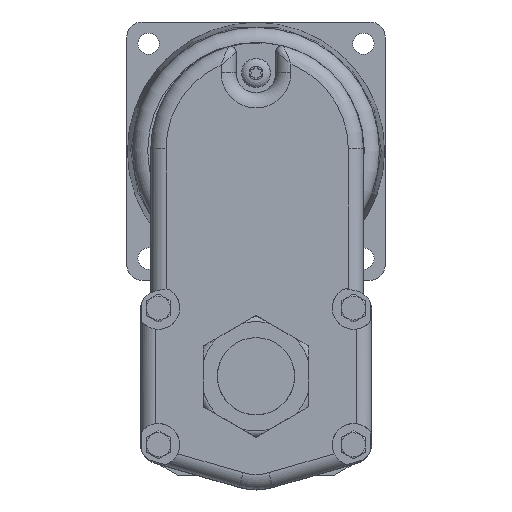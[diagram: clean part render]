
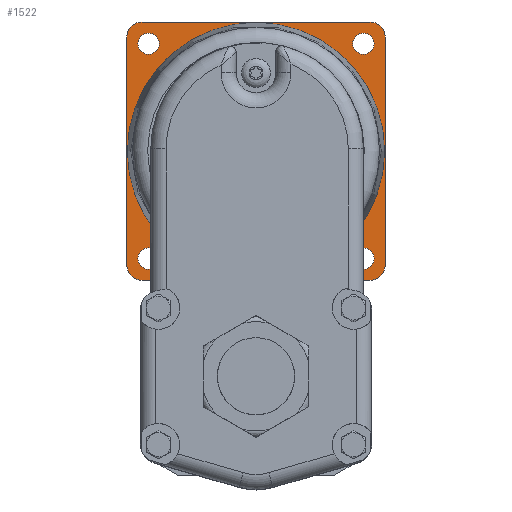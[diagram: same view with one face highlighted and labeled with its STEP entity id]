
A CAD part, top view. The second image highlights one B-rep face of the part: STEP entity #1522.
In plain terms, the highlighted planar face has unit normal (0, 0, 1).
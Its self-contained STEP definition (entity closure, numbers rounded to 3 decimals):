
#340 = EDGE_CURVE ( 'NONE', #11528, #11687, #5174, .T. ) ;
#351 = EDGE_CURVE ( 'NONE', #11612, #11528, #5203, .T. ) ;
#356 = EDGE_CURVE ( 'NONE', #11586, #11538, #5196, .T. ) ;
#357 = EDGE_CURVE ( 'NONE', #10983, #10983, #5212, .T. ) ;
#363 = EDGE_CURVE ( 'NONE', #11514, #11480, #5219, .T. ) ;
#365 = EDGE_CURVE ( 'NONE', #10989, #10989, #5221, .T. ) ;
#367 = EDGE_CURVE ( 'NONE', #11572, #11514, #5218, .T. ) ;
#370 = EDGE_CURVE ( 'NONE', #11538, #11572, #5228, .T. ) ;
#380 = EDGE_CURVE ( 'NONE', #11003, #11003, #5240, .T. ) ;
#398 = EDGE_CURVE ( 'NONE', #11013, #11013, #5263, .T. ) ;
#445 = EDGE_CURVE ( 'NONE', #11019, #11019, #5339, .T. ) ;
#447 = EDGE_CURVE ( 'NONE', #11480, #11612, #5326, .T. ) ;
#449 = EDGE_CURVE ( 'NONE', #11687, #11586, #5346, .T. ) ;
#1247 = EDGE_LOOP ( 'NONE', ( #1642 ) ) ;
#1248 = EDGE_LOOP ( 'NONE', ( #1643 ) ) ;
#1249 = EDGE_LOOP ( 'NONE', ( #1644 ) ) ;
#1250 = EDGE_LOOP ( 'NONE', ( #1641, #1381, #1646, #1638, #1637, #1645, #1650, #1640 ) ) ;
#1251 = EDGE_LOOP ( 'NONE', ( #1375 ) ) ;
#1305 = EDGE_LOOP ( 'NONE', ( #1369 ) ) ;
#1369 = ORIENTED_EDGE ( 'NONE', *, *, #357, .F. ) ;
#1375 = ORIENTED_EDGE ( 'NONE', *, *, #445, .F. ) ;
#1381 = ORIENTED_EDGE ( 'NONE', *, *, #351, .T. ) ;
#1522 = ADVANCED_FACE ( 'NONE', ( #7485, #7488, #7492, #7494, #7489, #7487 ), #6944, .F. ) ;
#1637 = ORIENTED_EDGE ( 'NONE', *, *, #356, .T. ) ;
#1638 = ORIENTED_EDGE ( 'NONE', *, *, #449, .T. ) ;
#1640 = ORIENTED_EDGE ( 'NONE', *, *, #363, .T. ) ;
#1641 = ORIENTED_EDGE ( 'NONE', *, *, #447, .T. ) ;
#1642 = ORIENTED_EDGE ( 'NONE', *, *, #398, .T. ) ;
#1643 = ORIENTED_EDGE ( 'NONE', *, *, #380, .F. ) ;
#1644 = ORIENTED_EDGE ( 'NONE', *, *, #365, .F. ) ;
#1645 = ORIENTED_EDGE ( 'NONE', *, *, #370, .T. ) ;
#1646 = ORIENTED_EDGE ( 'NONE', *, *, #340, .T. ) ;
#1650 = ORIENTED_EDGE ( 'NONE', *, *, #367, .T. ) ;
#2970 = AXIS2_PLACEMENT_3D ( 'NONE', #4354, #4355, #4356 ) ;
#2972 = AXIS2_PLACEMENT_3D ( 'NONE', #4294, #4301, #4302 ) ;
#2975 = AXIS2_PLACEMENT_3D ( 'NONE', #4313, #4317, #4318 ) ;
#2976 = AXIS2_PLACEMENT_3D ( 'NONE', #4340, #4342, #4343 ) ;
#2979 = AXIS2_PLACEMENT_3D ( 'NONE', #4326, #4336, #4337 ) ;
#2982 = AXIS2_PLACEMENT_3D ( 'NONE', #4384, #4386, #4387 ) ;
#3000 = AXIS2_PLACEMENT_3D ( 'NONE', #4432, #4439, #4440 ) ;
#3015 = AXIS2_PLACEMENT_3D ( 'NONE', #4534, #4550, #4551 ) ;
#3017 = AXIS2_PLACEMENT_3D ( 'NONE', #4557, #4561, #4562 ) ;
#4250 = CARTESIAN_POINT ( 'NONE',  ( -42.5, 31.9, -11.3 ) ) ;
#4262 = DIRECTION ( 'NONE',  ( 1., 0., 0. ) ) ;
#4294 = CARTESIAN_POINT ( 'NONE',  ( -37.5, 36.9, -11.3 ) ) ;
#4301 = DIRECTION ( 'NONE',  ( 0., 0., 1. ) ) ;
#4302 = DIRECTION ( 'NONE',  ( -1., 0., 0. ) ) ;
#4313 = CARTESIAN_POINT ( 'NONE',  ( 35.355, 109.755, -11.3 ) ) ;
#4314 = CARTESIAN_POINT ( 'NONE',  ( 42.5, 116.9, -11.3 ) ) ;
#4315 = DIRECTION ( 'NONE',  ( 0., 1., 0. ) ) ;
#4317 = DIRECTION ( 'NONE',  ( 0., 0., 1. ) ) ;
#4318 = DIRECTION ( 'NONE',  ( 1., 0., 0. ) ) ;
#4326 = CARTESIAN_POINT ( 'NONE',  ( -37.5, 111.9, -11.3 ) ) ;
#4336 = DIRECTION ( 'NONE',  ( 0., 0., 1. ) ) ;
#4337 = DIRECTION ( 'NONE',  ( -1., 0., 0. ) ) ;
#4340 = CARTESIAN_POINT ( 'NONE',  ( 35.355, 39.045, -11.3 ) ) ;
#4342 = DIRECTION ( 'NONE',  ( 0., 0., 1. ) ) ;
#4343 = DIRECTION ( 'NONE',  ( 1., 0., 0. ) ) ;
#4347 = CARTESIAN_POINT ( 'NONE',  ( -42.5, 116.9, -11.3 ) ) ;
#4348 = DIRECTION ( 'NONE',  ( -1., 0., 0. ) ) ;
#4354 = CARTESIAN_POINT ( 'NONE',  ( 37.5, 111.9, -11.3 ) ) ;
#4355 = DIRECTION ( 'NONE',  ( 0., 0., 1. ) ) ;
#4356 = DIRECTION ( 'NONE',  ( -1., 0., 0. ) ) ;
#4384 = CARTESIAN_POINT ( 'NONE',  ( -35.355, 109.755, -11.3 ) ) ;
#4386 = DIRECTION ( 'NONE',  ( 0., 0., 1. ) ) ;
#4387 = DIRECTION ( 'NONE',  ( 1., 0., 0. ) ) ;
#4432 = CARTESIAN_POINT ( 'NONE',  ( 0., 74.4, -11.3 ) ) ;
#4439 = DIRECTION ( 'NONE',  ( 0., 0., -1. ) ) ;
#4440 = DIRECTION ( 'NONE',  ( -1., 0., 0. ) ) ;
#4534 = CARTESIAN_POINT ( 'NONE',  ( -35.355, 39.045, -11.3 ) ) ;
#4550 = DIRECTION ( 'NONE',  ( 0., 0., 1. ) ) ;
#4551 = DIRECTION ( 'NONE',  ( 1., 0., 0. ) ) ;
#4555 = CARTESIAN_POINT ( 'NONE',  ( -42.5, 116.9, -11.3 ) ) ;
#4556 = DIRECTION ( 'NONE',  ( 0., -1., 0. ) ) ;
#4557 = CARTESIAN_POINT ( 'NONE',  ( 37.5, 36.9, -11.3 ) ) ;
#4561 = DIRECTION ( 'NONE',  ( 0., 0., 1. ) ) ;
#4562 = DIRECTION ( 'NONE',  ( -1., 0., 0. ) ) ;
#5174 = LINE ( 'NONE', #4250, #5188 ) ;
#5188 = VECTOR ( 'NONE', #4262, 1000. ) ;
#5196 = LINE ( 'NONE', #4314, #5210 ) ;
#5203 = CIRCLE ( 'NONE', #2972, 5. ) ;
#5210 = VECTOR ( 'NONE', #4315, 1000. ) ;
#5212 = CIRCLE ( 'NONE', #2975, 3.5 ) ;
#5218 = LINE ( 'NONE', #4347, #5223 ) ;
#5219 = CIRCLE ( 'NONE', #2979, 5. ) ;
#5221 = CIRCLE ( 'NONE', #2976, 3.5 ) ;
#5223 = VECTOR ( 'NONE', #4348, 1000. ) ;
#5228 = CIRCLE ( 'NONE', #2970, 5. ) ;
#5240 = CIRCLE ( 'NONE', #2982, 3.5 ) ;
#5263 = CIRCLE ( 'NONE', #3000, 42.331 ) ;
#5326 = LINE ( 'NONE', #4555, #5340 ) ;
#5339 = CIRCLE ( 'NONE', #3015, 3.5 ) ;
#5340 = VECTOR ( 'NONE', #4556, 1000. ) ;
#5346 = CIRCLE ( 'NONE', #3017, 5. ) ;
#5767 = AXIS2_PLACEMENT_3D ( 'NONE', #6943, #6946, #6947 ) ;
#6943 = CARTESIAN_POINT ( 'NONE',  ( 42.5, 116.9, -11.3 ) ) ;
#6944 = PLANE ( 'NONE',  #5767 ) ;
#6946 = DIRECTION ( 'NONE',  ( 0., 0., -1. ) ) ;
#6947 = DIRECTION ( 'NONE',  ( -1., 0., 0. ) ) ;
#7485 = FACE_BOUND ( 'NONE', #1305, .T. ) ;
#7487 = FACE_BOUND ( 'NONE', #1247, .T. ) ;
#7488 = FACE_BOUND ( 'NONE', #1251, .T. ) ;
#7489 = FACE_BOUND ( 'NONE', #1248, .T. ) ;
#7492 = FACE_OUTER_BOUND ( 'NONE', #1250, .T. ) ;
#7494 = FACE_BOUND ( 'NONE', #1249, .T. ) ;
#10632 = CARTESIAN_POINT ( 'NONE',  ( -42.5, 111.9, -11.3 ) ) ;
#10666 = CARTESIAN_POINT ( 'NONE',  ( -37.5, 116.9, -11.3 ) ) ;
#10680 = CARTESIAN_POINT ( 'NONE',  ( -37.5, 31.9, -11.3 ) ) ;
#10690 = CARTESIAN_POINT ( 'NONE',  ( 42.5, 111.9, -11.3 ) ) ;
#10724 = CARTESIAN_POINT ( 'NONE',  ( 37.5, 116.9, -11.3 ) ) ;
#10738 = CARTESIAN_POINT ( 'NONE',  ( 42.5, 36.9, -11.3 ) ) ;
#10764 = CARTESIAN_POINT ( 'NONE',  ( -42.5, 36.9, -11.3 ) ) ;
#10839 = CARTESIAN_POINT ( 'NONE',  ( 37.5, 31.9, -11.3 ) ) ;
#10983 = VERTEX_POINT ( 'NONE', #10984 ) ;
#10984 = CARTESIAN_POINT ( 'NONE',  ( 38.855, 109.755, -11.3 ) ) ;
#10989 = VERTEX_POINT ( 'NONE', #10990 ) ;
#10990 = CARTESIAN_POINT ( 'NONE',  ( 38.855, 39.045, -11.3 ) ) ;
#11003 = VERTEX_POINT ( 'NONE', #11004 ) ;
#11004 = CARTESIAN_POINT ( 'NONE',  ( -31.855, 109.755, -11.3 ) ) ;
#11013 = VERTEX_POINT ( 'NONE', #11014 ) ;
#11014 = CARTESIAN_POINT ( 'NONE',  ( -42.331, 74.4, -11.3 ) ) ;
#11019 = VERTEX_POINT ( 'NONE', #11020 ) ;
#11020 = CARTESIAN_POINT ( 'NONE',  ( -31.855, 39.045, -11.3 ) ) ;
#11480 = VERTEX_POINT ( 'NONE', #10632 ) ;
#11514 = VERTEX_POINT ( 'NONE', #10666 ) ;
#11528 = VERTEX_POINT ( 'NONE', #10680 ) ;
#11538 = VERTEX_POINT ( 'NONE', #10690 ) ;
#11572 = VERTEX_POINT ( 'NONE', #10724 ) ;
#11586 = VERTEX_POINT ( 'NONE', #10738 ) ;
#11612 = VERTEX_POINT ( 'NONE', #10764 ) ;
#11687 = VERTEX_POINT ( 'NONE', #10839 ) ;
